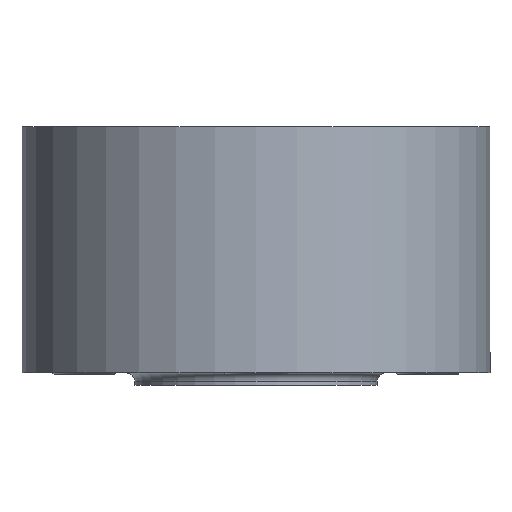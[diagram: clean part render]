
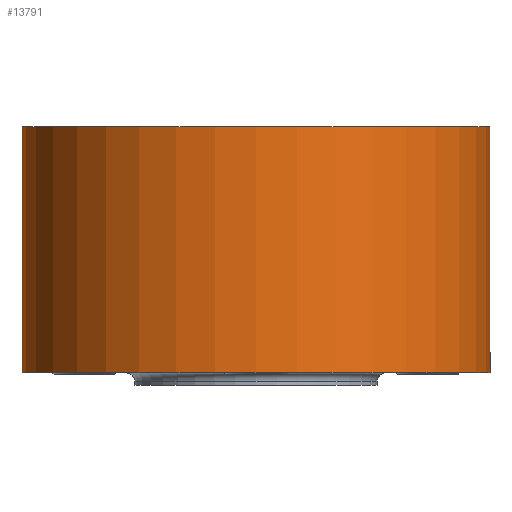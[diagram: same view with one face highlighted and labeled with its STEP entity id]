
A CAD part, front view. The second image highlights one B-rep face of the part: STEP entity #13791.
In plain terms, the highlighted cylindrical face has radius 85 mm (diameter 170 mm), a full revolution.
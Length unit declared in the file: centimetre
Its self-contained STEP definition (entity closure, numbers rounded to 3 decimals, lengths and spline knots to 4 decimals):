
#4719=FACE_BOUND('',#6213,.T.);
#5429=FACE_OUTER_BOUND('',#6212,.T.);
#6212=EDGE_LOOP('',(#13046));
#6213=EDGE_LOOP('',(#13047));
#6267=CIRCLE('',#14304,8.5);
#6277=CIRCLE('',#14326,8.5);
#7514=VERTEX_POINT('',#23158);
#7524=VERTEX_POINT('',#23190);
#9367=EDGE_CURVE('',#7514,#7514,#6267,.T.);
#9377=EDGE_CURVE('',#7524,#7524,#6277,.T.);
#13046=ORIENTED_EDGE('',*,*,#9377,.T.);
#13047=ORIENTED_EDGE('',*,*,#9367,.F.);
#13093=CYLINDRICAL_SURFACE('',#14325,8.5);
#13791=ADVANCED_FACE('',(#5429,#4719),#13093,.T.);
#14304=AXIS2_PLACEMENT_3D('',#23159,#16766,#16767);
#14325=AXIS2_PLACEMENT_3D('',#23189,#16808,#16809);
#14326=AXIS2_PLACEMENT_3D('',#23191,#16810,#16811);
#16766=DIRECTION('center_axis',(0.,0.,
1.));
#16767=DIRECTION('ref_axis',(-1.,0.,0.));
#16808=DIRECTION('center_axis',(0.,0.,
1.));
#16809=DIRECTION('ref_axis',(-1.,0.,0.));
#16810=DIRECTION('center_axis',(0.,0.,1.));
#16811=DIRECTION('ref_axis',(-1.,0.,0.));
#23158=CARTESIAN_POINT('',(8.5,0.,7.4));
#23159=CARTESIAN_POINT('Origin',(0.,0.,
7.4));
#23189=CARTESIAN_POINT('Origin',(0.,0.,
4.9));
#23190=CARTESIAN_POINT('',(-8.5,0.,-1.55));
#23191=CARTESIAN_POINT('Origin',(0.,0.,-1.55));
